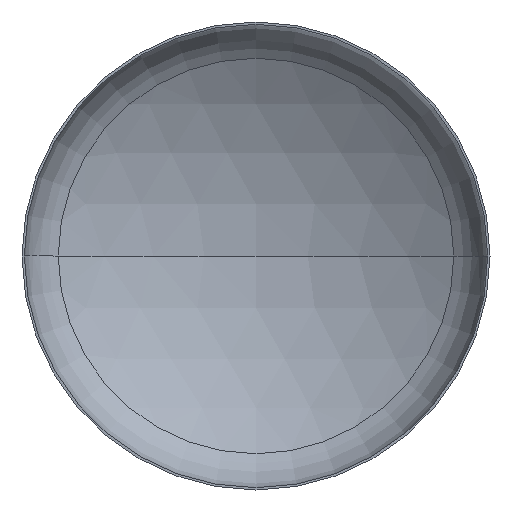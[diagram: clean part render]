
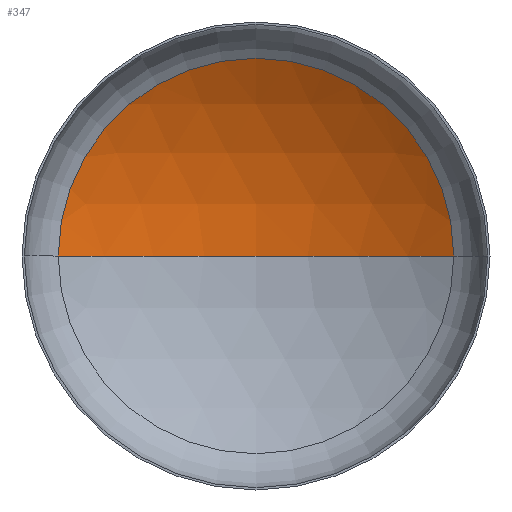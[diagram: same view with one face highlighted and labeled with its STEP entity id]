
A CAD part, front view. The second image highlights one B-rep face of the part: STEP entity #347.
In plain terms, the highlighted spherical face has radius 5200 mm.
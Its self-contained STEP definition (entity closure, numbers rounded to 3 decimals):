
#5 = DIRECTION ( 'NONE',  ( 0., -1., 0. ) ) ;
#9 = CARTESIAN_POINT ( 'NONE',  ( 0., 949.185, 0. ) ) ;
#15 = CARTESIAN_POINT ( 'NONE',  ( 0., -3466.578, 0. ) ) ;
#33 = DIRECTION ( 'NONE',  ( 0., 0., -1. ) ) ;
#40 = AXIS2_PLACEMENT_3D ( 'NONE', #170, #179, #164 ) ;
#45 = VERTEX_POINT ( 'NONE', #252 ) ;
#75 = ORIENTED_EDGE ( 'NONE', *, *, #177, .T. ) ;
#83 = ORIENTED_EDGE ( 'NONE', *, *, #178, .T. ) ;
#90 = AXIS2_PLACEMENT_3D ( 'NONE', #292, #116, #195 ) ;
#104 = AXIS2_PLACEMENT_3D ( 'NONE', #9, #5, #236 ) ;
#105 = EDGE_LOOP ( 'NONE', ( #135, #83, #75 ) ) ;
#107 = AXIS2_PLACEMENT_3D ( 'NONE', #15, #33, #317 ) ;
#110 = VERTEX_POINT ( 'NONE', #241 ) ;
#116 = DIRECTION ( 'NONE',  ( 0., 0., 1. ) ) ;
#132 = VERTEX_POINT ( 'NONE', #248 ) ;
#135 = ORIENTED_EDGE ( 'NONE', *, *, #182, .F. ) ;
#164 = DIRECTION ( 'NONE',  ( -1., 0., 0. ) ) ;
#170 = CARTESIAN_POINT ( 'NONE',  ( 0., -3466.578, 0. ) ) ;
#177 = EDGE_CURVE ( 'NONE', #45, #110, #326, .T. ) ;
#178 = EDGE_CURVE ( 'NONE', #132, #45, #206, .T. ) ;
#179 = DIRECTION ( 'NONE',  ( 0., 0., -1. ) ) ;
#182 = EDGE_CURVE ( 'NONE', #132, #110, #381, .T. ) ;
#195 = DIRECTION ( 'NONE',  ( 1., 0., 0. ) ) ;
#206 = CIRCLE ( 'NONE', #107, 5200. ) ;
#236 = DIRECTION ( 'NONE',  ( 1., 0., 0. ) ) ;
#241 = CARTESIAN_POINT ( 'NONE',  ( -2746.095, 949.185, 0. ) ) ;
#248 = CARTESIAN_POINT ( 'NONE',  ( 0., 1733.422, 0. ) ) ;
#252 = CARTESIAN_POINT ( 'NONE',  ( 2746.095, 949.185, 0. ) ) ;
#292 = CARTESIAN_POINT ( 'NONE',  ( 0., -3466.578, 0. ) ) ;
#317 = DIRECTION ( 'NONE',  ( -1., 0., 0. ) ) ;
#326 = CIRCLE ( 'NONE', #104, 2746.095 ) ;
#347 = ADVANCED_FACE ( 'NONE', ( #356 ), #408, .F. ) ;
#356 = FACE_OUTER_BOUND ( 'NONE', #105, .T. ) ;
#381 = CIRCLE ( 'NONE', #90, 5200. ) ;
#408 = SPHERICAL_SURFACE ( 'NONE', #40, 5200. ) ;
